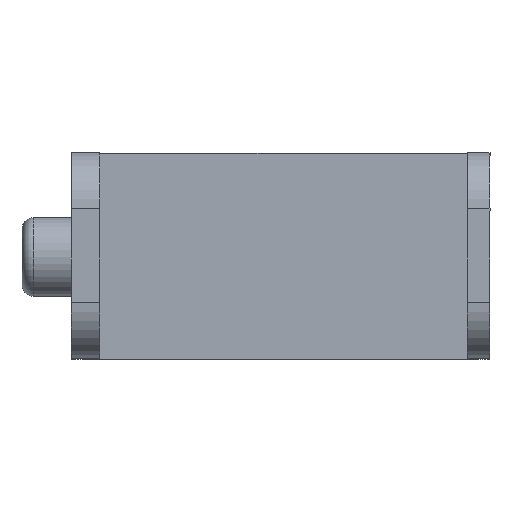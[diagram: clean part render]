
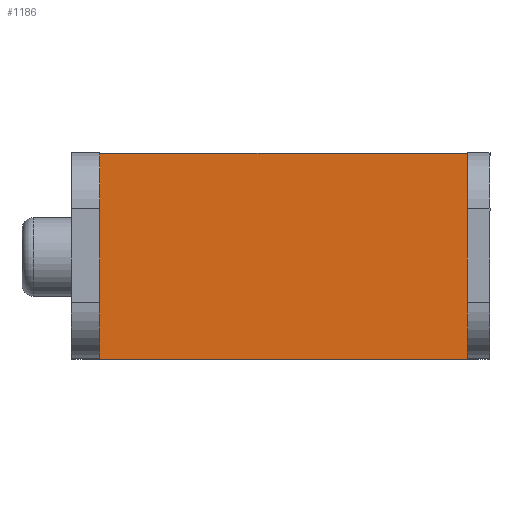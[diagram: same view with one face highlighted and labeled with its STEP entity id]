
A CAD part, top view. The second image highlights one B-rep face of the part: STEP entity #1186.
In plain terms, the highlighted planar face has unit normal (0, 0, 1).
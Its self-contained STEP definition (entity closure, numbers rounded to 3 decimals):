
#169=FACE_OUTER_BOUND('',#249,.T.);
#249=EDGE_LOOP('',(#1079,#1080,#1081,#1082));
#337=LINE('',#1869,#458);
#346=LINE('',#1895,#467);
#352=LINE('',#1909,#473);
#371=LINE('',#1982,#492);
#458=VECTOR('',#1516,10.);
#467=VECTOR('',#1539,10.);
#473=VECTOR('',#1555,10.);
#492=VECTOR('',#1642,10.);
#566=VERTEX_POINT('',#1866);
#567=VERTEX_POINT('',#1868);
#576=VERTEX_POINT('',#1892);
#577=VERTEX_POINT('',#1894);
#704=EDGE_CURVE('',#567,#566,#337,.T.);
#717=EDGE_CURVE('',#577,#576,#346,.T.);
#725=EDGE_CURVE('',#576,#567,#352,.T.);
#762=EDGE_CURVE('',#566,#577,#371,.T.);
#1079=ORIENTED_EDGE('',*,*,#717,.T.);
#1080=ORIENTED_EDGE('',*,*,#725,.T.);
#1081=ORIENTED_EDGE('',*,*,#704,.T.);
#1082=ORIENTED_EDGE('',*,*,#762,.T.);
#1126=PLANE('',#1316);
#1186=ADVANCED_FACE('',(#169),#1126,.T.);
#1316=AXIS2_PLACEMENT_3D('',#1984,#1645,#1646);
#1516=DIRECTION('',(1.,0.,0.));
#1539=DIRECTION('',(-1.,0.,0.));
#1555=DIRECTION('',(0.,-1.,0.));
#1642=DIRECTION('',(0.,1.,0.));
#1645=DIRECTION('center_axis',(0.,0.,1.));
#1646=DIRECTION('ref_axis',(1.,0.,0.));
#1866=CARTESIAN_POINT('',(16.6,-9.15,2.));
#1868=CARTESIAN_POINT('',(-16.1,-9.15,2.));
#1869=CARTESIAN_POINT('',(18.6,-9.15,2.));
#1892=CARTESIAN_POINT('',(-16.1,9.15,2.));
#1894=CARTESIAN_POINT('',(16.6,9.15,2.));
#1895=CARTESIAN_POINT('',(-18.6,9.15,2.));
#1909=CARTESIAN_POINT('',(-16.1,9.15,2.));
#1982=CARTESIAN_POINT('',(16.6,9.15,2.));
#1984=CARTESIAN_POINT('Origin',(0.25,0.,
2.));
